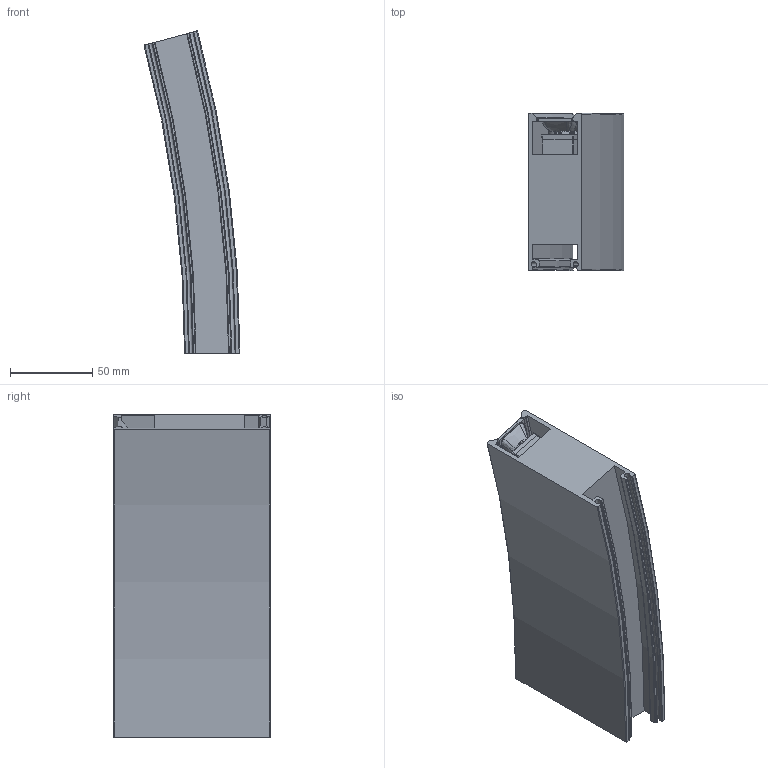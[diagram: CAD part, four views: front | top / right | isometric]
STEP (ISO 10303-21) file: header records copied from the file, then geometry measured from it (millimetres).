
FILE_DESCRIPTION(/* description */ (''),/* implementation_level */ '2;1');
FILE_NAME(/* name */ 'Evelo S R750 Optics Assembly.stp',/* time_stamp */ '2024-09-20T17:06:53+10:00',/* author */ ('Mlight Projects'),/* organization */ (''),/* preprocessor_version */ 'ST-DEVELOPER v20',/* originating_system */ 'Autodesk Inventor 2024',/* authorisation */ '');
FILE_SCHEMA (('AUTOMOTIVE_DESIGN { 1 0 10303 214 3 1 1 }'));
Length unit declared in the file: millimetre
Products named in the file (3): Evelo S R750 Optics Assembly; Body R200; Admi1D06weom
Assembly tree (2 placements, depth 2):
  Evelo S R750 Optics Assembly
    Body R200
    Admi1D06weom
Bounding box: 58.21 x 95.1 x 195.62 mm (x, y, z)
Volume: 443310 mm3; surface area: 115169 mm2
Topology: 4 solids, 4 shells, 1547 faces, 4179 edges, 2702 vertices
Faces by surface type: bspline 741, plane 434, cylinder 176, cone 159, torus 37
Full cylindrical faces by diameter (mm): 3.5 x3, 9.578 x1, 10.5 x2, 13.374 x6
Entity records: 74773 total; most frequent: CARTESIAN_POINT 38332, ORIENTED_EDGE 8358, DIRECTION 6010, EDGE_CURVE 4179, VERTEX_POINT 2702, AXIS2_PLACEMENT_3D 2396, EDGE_LOOP 1667, FACE_OUTER_BOUND 1547
